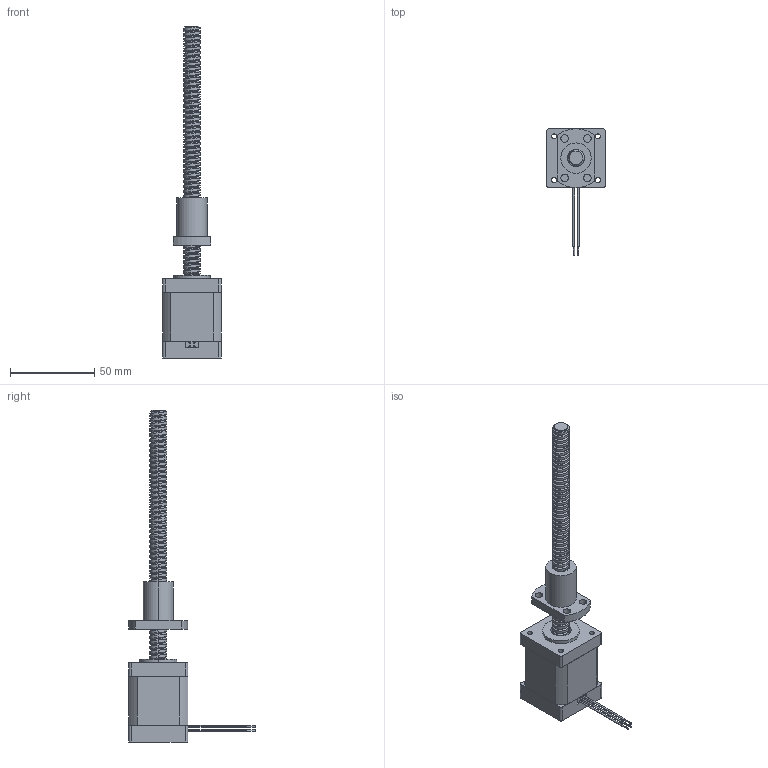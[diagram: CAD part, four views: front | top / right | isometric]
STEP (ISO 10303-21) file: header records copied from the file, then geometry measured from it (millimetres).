
FILE_DESCRIPTION (( 'STEP AP203' ), '1' );
FILE_NAME ('35E247-BS1002-1.5-4-150-001.STEP', '2019-09-06T03:34:21', ( '' ), ( '' ), 'SwSTEP 2.0', 'SolidWorks 2017', '' );
FILE_SCHEMA (( 'CONFIG_CONTROL_DESIGN' ));
Length unit declared in the file: millimetre
Products named in the file (1): 35E247-BS1002-1.5-4-150-001
Bounding box: 35 x 75 x 197 mm (x, y, z)
Volume: 67632.3 mm3; surface area: 23982.2 mm2
Topology: 7 solids, 7 shells, 223 faces, 620 edges, 412 vertices
Faces by surface type: cylinder 175, plane 43, bspline 3, cone 2
Entity records: 19486 total; most frequent: CARTESIAN_POINT 13978, ORIENTED_EDGE 1240, DIRECTION 1026, EDGE_CURVE 620, VERTEX_POINT 412, AXIS2_PLACEMENT_3D 391, EDGE_LOOP 260, LINE 244
